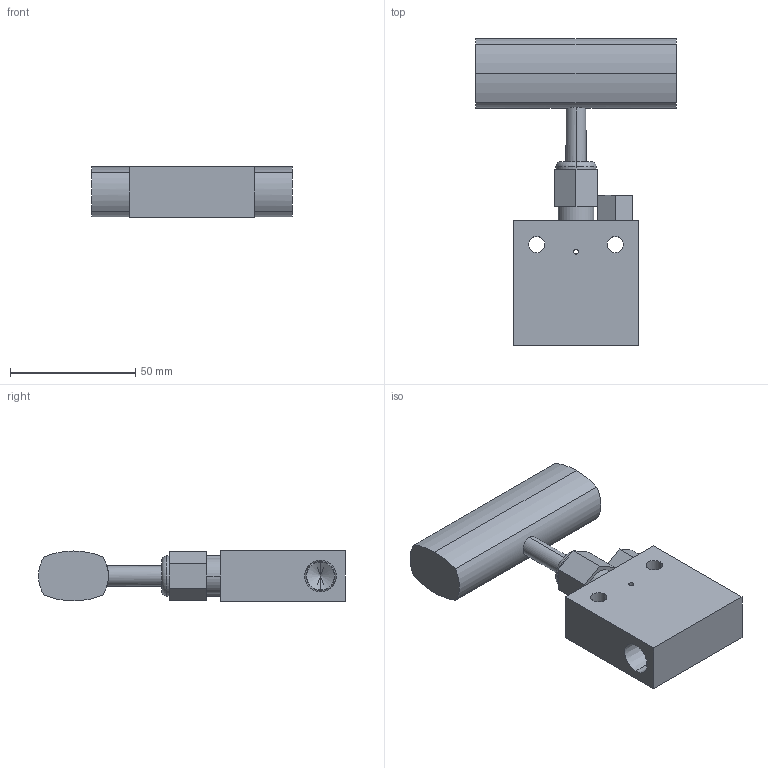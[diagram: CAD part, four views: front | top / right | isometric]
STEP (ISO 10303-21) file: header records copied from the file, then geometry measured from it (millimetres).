
FILE_DESCRIPTION (( 'STEP AP203' ), '1' );
FILE_NAME ('NVNVS04-S.STEP', '2022-04-19T05:58:11', ( '' ), ( '' ), 'SwSTEP 2.0', 'SolidWorks 2020', '' );
FILE_SCHEMA (( 'CONFIG_CONTROL_DESIGN' ));
Length unit declared in the file: millimetre
Products named in the file (1): NVNVS04-S
Bounding box: 80 x 122.69 x 20 mm (x, y, z)
Volume: 91254.2 mm3; surface area: 20738.7 mm2
Topology: 1 solids, 1 shells, 57 faces, 135 edges, 86 vertices
Faces by surface type: plane 26, cylinder 21, cone 8, torus 2
Entity records: 1776 total; most frequent: CARTESIAN_POINT 341, DIRECTION 297, ORIENTED_EDGE 262, EDGE_CURVE 131, AXIS2_PLACEMENT_3D 110, VERTEX_POINT 86, VECTOR 77, LINE 77
